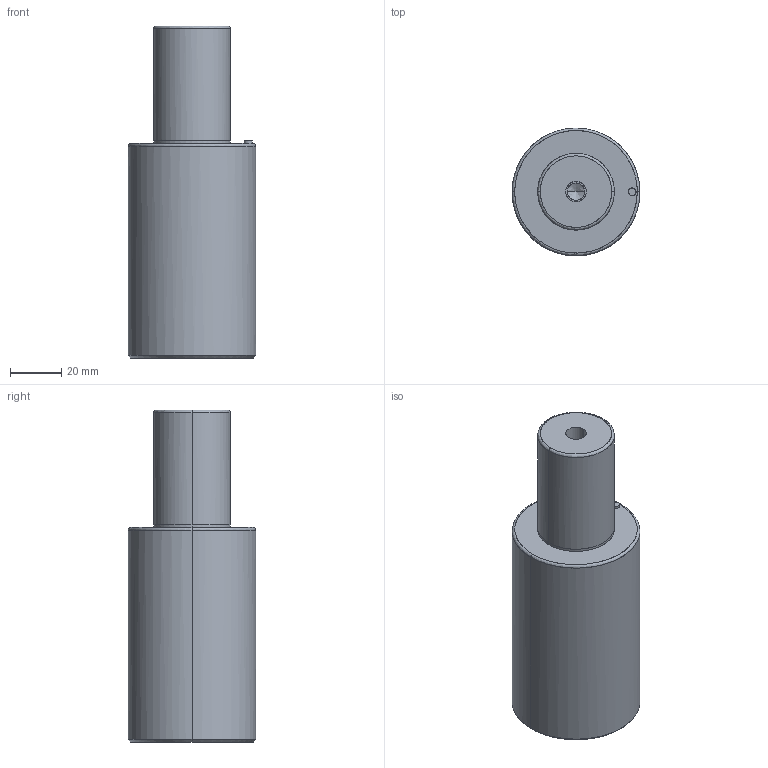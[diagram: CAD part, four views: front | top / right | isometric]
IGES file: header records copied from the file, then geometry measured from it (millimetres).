
Global section: file name: E:\UnigraphicsGraphicData\MISUMI_PRESS-PARTS\IGES\3d_gsc50-45_03835_r00.igs; native system: NX V5.0; preprocessor: UGS NX IGES V5.0; author: MISUMI; date: 20110105.160749; units: millimetre
Bounding box: 50 x 49.97 x 130 mm (x, y, z)
Surface area: 22150 mm2 (no closed solid volume)
Topology: 0 solids, 0 shells, 32 faces, 232 edges, 228 vertices
Faces by surface type: bspline 32
